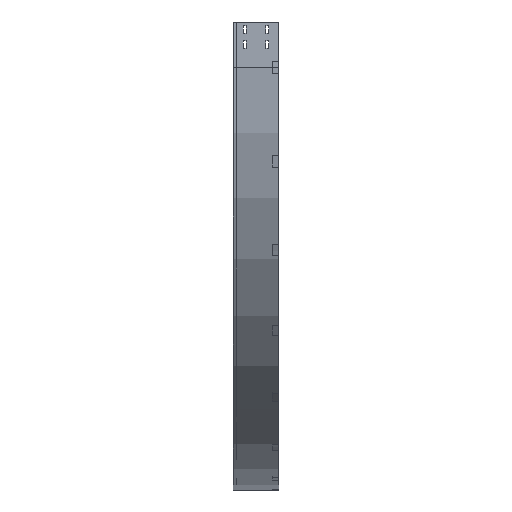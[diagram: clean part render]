
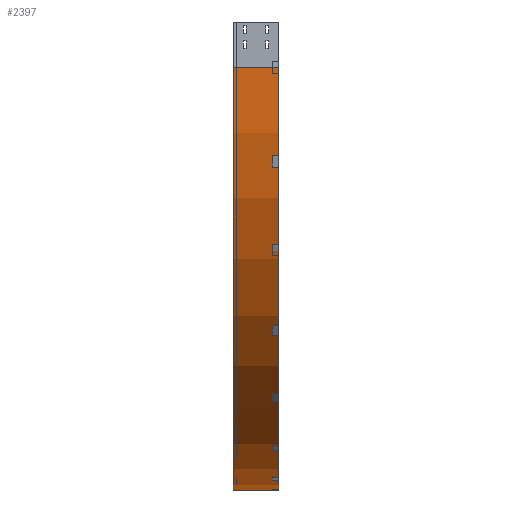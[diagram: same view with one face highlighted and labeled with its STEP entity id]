
A CAD part, left-side view. The second image highlights one B-rep face of the part: STEP entity #2397.
In plain terms, the highlighted cylindrical face has radius 1400 mm (diameter 2800 mm), a partial arc.
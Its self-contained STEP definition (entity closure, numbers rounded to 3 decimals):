
#80 = CARTESIAN_POINT ( 'NONE',  ( 1400., 0., -150. ) ) ;
#101 = DIRECTION ( 'NONE',  ( 0., -1., 0. ) ) ;
#419 = VECTOR ( 'NONE', #3667, 1000. ) ;
#537 = CIRCLE ( 'NONE', #2984, 1400. ) ;
#613 = CARTESIAN_POINT ( 'NONE',  ( 1400., 0., -150. ) ) ;
#702 = CARTESIAN_POINT ( 'NONE',  ( 1400., 0., -1550. ) ) ;
#734 = AXIS2_PLACEMENT_3D ( 'NONE', #613, #1800, #3002 ) ;
#866 = FACE_OUTER_BOUND ( 'NONE', #2874, .T. ) ;
#1025 = ORIENTED_EDGE ( 'NONE', *, *, #2713, .T. ) ;
#1187 = EDGE_CURVE ( 'NONE', #2668, #2430, #2452, .T. ) ;
#1223 = EDGE_CURVE ( 'NONE', #1395, #2430, #2670, .T. ) ;
#1395 = VERTEX_POINT ( 'NONE', #3011 ) ;
#1446 = CARTESIAN_POINT ( 'NONE',  ( 0., 0., -150. ) ) ;
#1480 = CARTESIAN_POINT ( 'NONE',  ( 1400., 150., -150. ) ) ;
#1740 = DIRECTION ( 'NONE',  ( 0., -1., 0. ) ) ;
#1759 = LINE ( 'NONE', #1446, #2535 ) ;
#1795 = AXIS2_PLACEMENT_3D ( 'NONE', #80, #101, #2809 ) ;
#1800 = DIRECTION ( 'NONE',  ( 0., -1., 0. ) ) ;
#2195 = VERTEX_POINT ( 'NONE', #2598 ) ;
#2367 = EDGE_CURVE ( 'NONE', #2195, #1395, #1759, .T. ) ;
#2397 = ADVANCED_FACE ( 'NONE', ( #866 ), #3261, .T. ) ;
#2430 = VERTEX_POINT ( 'NONE', #3340 ) ;
#2452 = LINE ( 'NONE', #702, #419 ) ;
#2535 = VECTOR ( 'NONE', #1740, 1000. ) ;
#2588 = ORIENTED_EDGE ( 'NONE', *, *, #1187, .T. ) ;
#2598 = CARTESIAN_POINT ( 'NONE',  ( 0., 150., -150. ) ) ;
#2668 = VERTEX_POINT ( 'NONE', #3508 ) ;
#2670 = CIRCLE ( 'NONE', #1795, 1400. ) ;
#2713 = EDGE_CURVE ( 'NONE', #2195, #2668, #537, .T. ) ;
#2809 = DIRECTION ( 'NONE',  ( -1., 0., 0. ) ) ;
#2874 = EDGE_LOOP ( 'NONE', ( #2970, #3774, #1025, #2588 ) ) ;
#2970 = ORIENTED_EDGE ( 'NONE', *, *, #1223, .F. ) ;
#2978 = DIRECTION ( 'NONE',  ( -1., 0., 0. ) ) ;
#2984 = AXIS2_PLACEMENT_3D ( 'NONE', #1480, #3254, #2978 ) ;
#3002 = DIRECTION ( 'NONE',  ( 0., 0., -1. ) ) ;
#3011 = CARTESIAN_POINT ( 'NONE',  ( 0., 0., -150. ) ) ;
#3254 = DIRECTION ( 'NONE',  ( 0., -1., 0. ) ) ;
#3261 = CYLINDRICAL_SURFACE ( 'NONE', #734, 1400. ) ;
#3340 = CARTESIAN_POINT ( 'NONE',  ( 1400., 0., -1550. ) ) ;
#3508 = CARTESIAN_POINT ( 'NONE',  ( 1400., 150., -1550. ) ) ;
#3667 = DIRECTION ( 'NONE',  ( 0., -1., 0. ) ) ;
#3774 = ORIENTED_EDGE ( 'NONE', *, *, #2367, .F. ) ;
